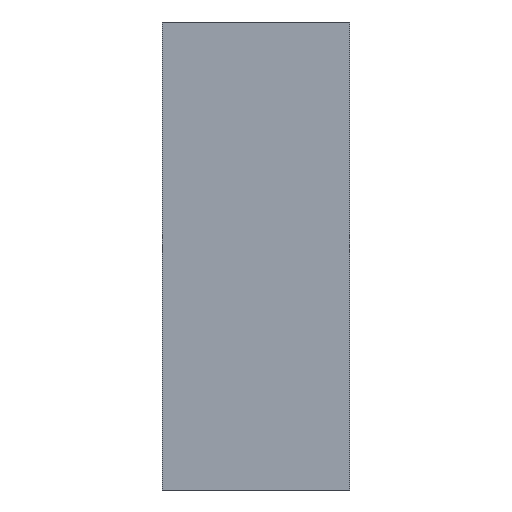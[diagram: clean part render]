
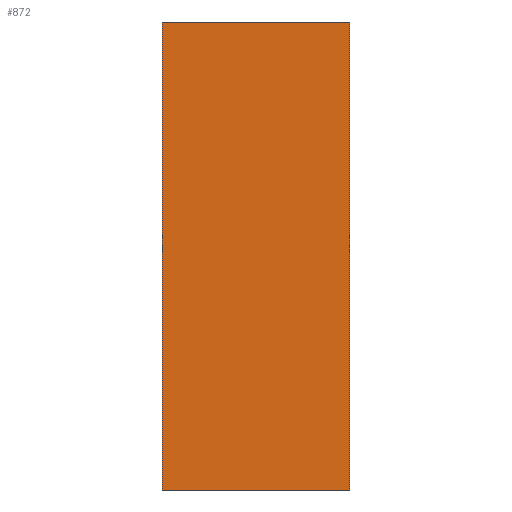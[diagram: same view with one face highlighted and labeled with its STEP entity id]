
A CAD part, left-side view. The second image highlights one B-rep face of the part: STEP entity #872.
In plain terms, the highlighted planar face has unit normal (-1, 0, 0).
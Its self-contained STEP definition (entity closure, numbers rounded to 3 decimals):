
#44 = PLANE('',#45);
#45 = AXIS2_PLACEMENT_3D('',#46,#47,#48);
#46 = CARTESIAN_POINT('',(-8.,-15.,17.));
#47 = DIRECTION('',(-0.,1.,-0.));
#48 = DIRECTION('',(0.,0.,-1.));
#72 = PLANE('',#73);
#73 = AXIS2_PLACEMENT_3D('',#74,#75,#76);
#74 = CARTESIAN_POINT('',(-8.,-15.,17.));
#75 = DIRECTION('',(0.,0.,1.));
#76 = DIRECTION('',(1.,0.,0.));
#100 = PLANE('',#101);
#101 = AXIS2_PLACEMENT_3D('',#102,#103,#104);
#102 = CARTESIAN_POINT('',(-8.,-11.,17.));
#103 = DIRECTION('',(-0.,1.,-0.));
#104 = DIRECTION('',(0.,0.,-1.));
#142 = VERTEX_POINT('',#143);
#143 = CARTESIAN_POINT('',(-122.,-15.,17.));
#329 = VERTEX_POINT('',#330);
#330 = CARTESIAN_POINT('',(-122.,-15.,27.));
#344 = PLANE('',#345);
#345 = AXIS2_PLACEMENT_3D('',#346,#347,#348);
#346 = CARTESIAN_POINT('',(-8.,-15.,27.));
#347 = DIRECTION('',(0.,0.,1.));
#348 = DIRECTION('',(1.,0.,0.));
#356 = EDGE_CURVE('',#142,#329,#357,.T.);
#357 = SURFACE_CURVE('',#358,(#362,#369),.PCURVE_S1.);
#358 = LINE('',#359,#360);
#359 = CARTESIAN_POINT('',(-122.,-15.,17.));
#360 = VECTOR('',#361,1.);
#361 = DIRECTION('',(0.,0.,1.));
#362 = PCURVE('',#44,#363);
#363 = DEFINITIONAL_REPRESENTATION('',(#364),#368);
#364 = LINE('',#365,#366);
#365 = CARTESIAN_POINT('',(-0.,114.));
#366 = VECTOR('',#367,1.);
#367 = DIRECTION('',(-1.,-0.));
#368 = ( GEOMETRIC_REPRESENTATION_CONTEXT(2)
PARAMETRIC_REPRESENTATION_CONTEXT() REPRESENTATION_CONTEXT('2D SPACE',''
  ) );
#369 = PCURVE('',#370,#375);
#370 = PLANE('',#371);
#371 = AXIS2_PLACEMENT_3D('',#372,#373,#374);
#372 = CARTESIAN_POINT('',(-122.,-15.,17.));
#373 = DIRECTION('',(-1.,-0.,0.));
#374 = DIRECTION('',(0.,0.,-1.));
#375 = DEFINITIONAL_REPRESENTATION('',(#376),#380);
#376 = LINE('',#377,#378);
#377 = CARTESIAN_POINT('',(-0.,-0.));
#378 = VECTOR('',#379,1.);
#379 = DIRECTION('',(-1.,-0.));
#380 = ( GEOMETRIC_REPRESENTATION_CONTEXT(2)
PARAMETRIC_REPRESENTATION_CONTEXT() REPRESENTATION_CONTEXT('2D SPACE',''
  ) );
#559 = VERTEX_POINT('',#560);
#560 = CARTESIAN_POINT('',(-122.,-11.,17.));
#699 = VERTEX_POINT('',#700);
#700 = CARTESIAN_POINT('',(-122.,-11.,27.));
#721 = EDGE_CURVE('',#559,#699,#722,.T.);
#722 = SURFACE_CURVE('',#723,(#727,#734),.PCURVE_S1.);
#723 = LINE('',#724,#725);
#724 = CARTESIAN_POINT('',(-122.,-11.,17.));
#725 = VECTOR('',#726,1.);
#726 = DIRECTION('',(0.,0.,1.));
#727 = PCURVE('',#100,#728);
#728 = DEFINITIONAL_REPRESENTATION('',(#729),#733);
#729 = LINE('',#730,#731);
#730 = CARTESIAN_POINT('',(-0.,114.));
#731 = VECTOR('',#732,1.);
#732 = DIRECTION('',(-1.,-0.));
#733 = ( GEOMETRIC_REPRESENTATION_CONTEXT(2)
PARAMETRIC_REPRESENTATION_CONTEXT() REPRESENTATION_CONTEXT('2D SPACE',''
  ) );
#734 = PCURVE('',#370,#735);
#735 = DEFINITIONAL_REPRESENTATION('',(#736),#740);
#736 = LINE('',#737,#738);
#737 = CARTESIAN_POINT('',(-0.,-4.));
#738 = VECTOR('',#739,1.);
#739 = DIRECTION('',(-1.,-0.));
#740 = ( GEOMETRIC_REPRESENTATION_CONTEXT(2)
PARAMETRIC_REPRESENTATION_CONTEXT() REPRESENTATION_CONTEXT('2D SPACE',''
  ) );
#851 = EDGE_CURVE('',#142,#559,#852,.T.);
#852 = SURFACE_CURVE('',#853,(#857,#864),.PCURVE_S1.);
#853 = LINE('',#854,#855);
#854 = CARTESIAN_POINT('',(-122.,-15.,17.));
#855 = VECTOR('',#856,1.);
#856 = DIRECTION('',(-0.,1.,0.));
#857 = PCURVE('',#72,#858);
#858 = DEFINITIONAL_REPRESENTATION('',(#859),#863);
#859 = LINE('',#860,#861);
#860 = CARTESIAN_POINT('',(-114.,0.));
#861 = VECTOR('',#862,1.);
#862 = DIRECTION('',(-0.,1.));
#863 = ( GEOMETRIC_REPRESENTATION_CONTEXT(2)
PARAMETRIC_REPRESENTATION_CONTEXT() REPRESENTATION_CONTEXT('2D SPACE',''
  ) );
#864 = PCURVE('',#370,#865);
#865 = DEFINITIONAL_REPRESENTATION('',(#866),#870);
#866 = LINE('',#867,#868);
#867 = CARTESIAN_POINT('',(-0.,-0.));
#868 = VECTOR('',#869,1.);
#869 = DIRECTION('',(-0.,-1.));
#870 = ( GEOMETRIC_REPRESENTATION_CONTEXT(2)
PARAMETRIC_REPRESENTATION_CONTEXT() REPRESENTATION_CONTEXT('2D SPACE',''
  ) );
#872 = ADVANCED_FACE('',(#873),#370,.T.);
#873 = FACE_BOUND('',#874,.F.);
#874 = EDGE_LOOP('',(#875,#876,#877,#878));
#875 = ORIENTED_EDGE('',*,*,#356,.F.);
#876 = ORIENTED_EDGE('',*,*,#851,.T.);
#877 = ORIENTED_EDGE('',*,*,#721,.T.);
#878 = ORIENTED_EDGE('',*,*,#879,.F.);
#879 = EDGE_CURVE('',#329,#699,#880,.T.);
#880 = SURFACE_CURVE('',#881,(#885,#892),.PCURVE_S1.);
#881 = LINE('',#882,#883);
#882 = CARTESIAN_POINT('',(-122.,-15.,27.));
#883 = VECTOR('',#884,1.);
#884 = DIRECTION('',(-0.,1.,0.));
#885 = PCURVE('',#370,#886);
#886 = DEFINITIONAL_REPRESENTATION('',(#887),#891);
#887 = LINE('',#888,#889);
#888 = CARTESIAN_POINT('',(-10.,-0.));
#889 = VECTOR('',#890,1.);
#890 = DIRECTION('',(-0.,-1.));
#891 = ( GEOMETRIC_REPRESENTATION_CONTEXT(2)
PARAMETRIC_REPRESENTATION_CONTEXT() REPRESENTATION_CONTEXT('2D SPACE',''
  ) );
#892 = PCURVE('',#344,#893);
#893 = DEFINITIONAL_REPRESENTATION('',(#894),#898);
#894 = LINE('',#895,#896);
#895 = CARTESIAN_POINT('',(-114.,0.));
#896 = VECTOR('',#897,1.);
#897 = DIRECTION('',(-0.,1.));
#898 = ( GEOMETRIC_REPRESENTATION_CONTEXT(2)
PARAMETRIC_REPRESENTATION_CONTEXT() REPRESENTATION_CONTEXT('2D SPACE',''
  ) );
